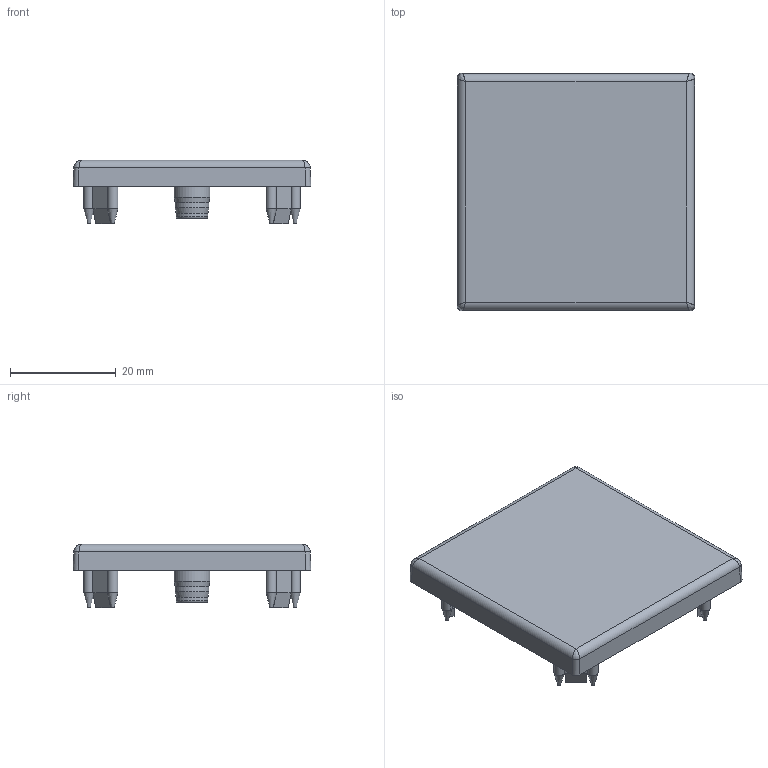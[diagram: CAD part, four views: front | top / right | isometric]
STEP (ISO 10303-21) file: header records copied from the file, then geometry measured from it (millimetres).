
FILE_DESCRIPTION(/* description */ (''),/* implementation_level */ '2;1');
FILE_NAME(/* name */ 'C:\Users\AMS43\Documents\Inventor\AMS\misumi\\X2\30A830F330C930AD30E330C330D7\X0\\ECP-4545-8.ipt.stp',/* time_stamp */ '2016-10-03T14:50:49+09:00',/* author */ ('AMS43'),/* organization */ (''),/* preprocessor_version */ 'ST-DEVELOPER v15.2',/* originating_system */ 'Autodesk Inventor 2014',/* authorisation */ '');
FILE_SCHEMA (('AUTOMOTIVE_DESIGN { 1 0 10303 214 3 1 1 }'));
Length unit declared in the file: metre
Products named in the file (1): ECP-4545-8
Bounding box: 45 x 45 x 12 mm (x, y, z)
Volume: 6013.3 mm3; surface area: 6079.6 mm2
Topology: 1 solids, 1 shells, 119 faces, 305 edges, 184 vertices
Faces by surface type: plane 70, cylinder 27, cone 15, bspline 4, torus 3
Full cylindrical faces by diameter (mm): 6 x1, 6.4 x1, 6.8 x1
Entity records: 3455 total; most frequent: CARTESIAN_POINT 670, DIRECTION 590, ORIENTED_EDGE 542, EDGE_CURVE 271, AXIS2_PLACEMENT_3D 203, LINE 184, VECTOR 184, VERTEX_POINT 175
